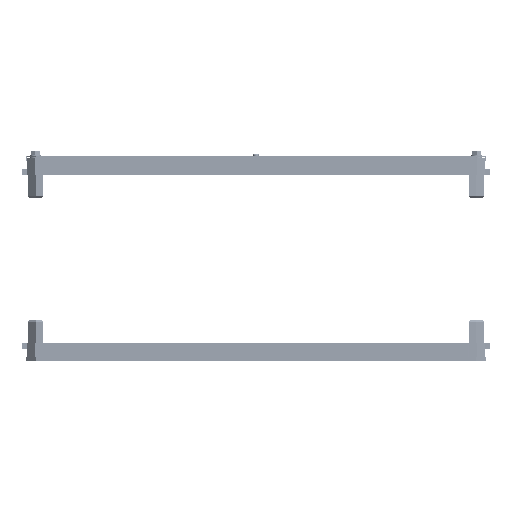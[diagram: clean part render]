
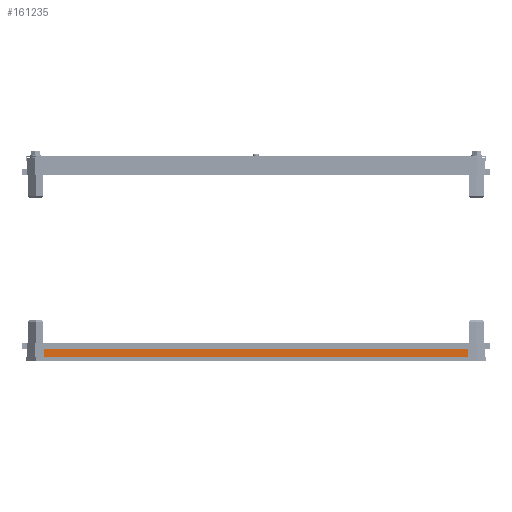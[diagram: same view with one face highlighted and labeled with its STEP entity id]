
A CAD part, left-side view. The second image highlights one B-rep face of the part: STEP entity #161235.
In plain terms, the highlighted planar face has unit normal (-1, 0, 0).
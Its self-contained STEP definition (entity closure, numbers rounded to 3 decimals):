
#52591 = CARTESIAN_POINT ( 'NONE',  ( -789.55, -745.6, 22.4 ) ) ;
#52933 = VECTOR ( 'NONE', #132779, 1000. ) ;
#59098 = CARTESIAN_POINT ( 'NONE',  ( -789.55, -745.6, 22.4 ) ) ;
#61123 = LINE ( 'NONE', #127526, #214201 ) ;
#65706 = EDGE_CURVE ( 'NONE', #77886, #169997, #61123, .T. ) ;
#66369 = LINE ( 'NONE', #100127, #52933 ) ;
#67124 = ORIENTED_EDGE ( 'NONE', *, *, #65706, .T. ) ;
#69014 = CARTESIAN_POINT ( 'NONE',  ( -789.55, -745.6, -0.1 ) ) ;
#77886 = VERTEX_POINT ( 'NONE', #154582 ) ;
#78011 = CARTESIAN_POINT ( 'NONE',  ( -789.55, -745.6, -0.1 ) ) ;
#78800 = ORIENTED_EDGE ( 'NONE', *, *, #136120, .F. ) ;
#82527 = VECTOR ( 'NONE', #119018, 1000. ) ;
#83904 = DIRECTION ( 'NONE',  ( 0., 0., -1. ) ) ;
#84286 = PLANE ( 'NONE',  #158576 ) ;
#90160 = EDGE_CURVE ( 'NONE', #176034, #169997, #112831, .T. ) ;
#90920 = CARTESIAN_POINT ( 'NONE',  ( -789.55, 162.4, -0.1 ) ) ;
#100127 = CARTESIAN_POINT ( 'NONE',  ( -789.55, -745.6, 21.1 ) ) ;
#112831 = LINE ( 'NONE', #78011, #131673 ) ;
#113284 = VERTEX_POINT ( 'NONE', #59098 ) ;
#114961 = DIRECTION ( 'NONE',  ( 0., 1., 0. ) ) ;
#119018 = DIRECTION ( 'NONE',  ( 0., -1., 0. ) ) ;
#121767 = EDGE_LOOP ( 'NONE', ( #67124, #144812, #215512, #78800 ) ) ;
#127526 = CARTESIAN_POINT ( 'NONE',  ( -789.55, 162.4, 21.1 ) ) ;
#131108 = CARTESIAN_POINT ( 'NONE',  ( -789.55, -745.6, 21.1 ) ) ;
#131673 = VECTOR ( 'NONE', #114961, 1000. ) ;
#132779 = DIRECTION ( 'NONE',  ( 0., 0., -1. ) ) ;
#136120 = EDGE_CURVE ( 'NONE', #77886, #113284, #199636, .T. ) ;
#144812 = ORIENTED_EDGE ( 'NONE', *, *, #90160, .F. ) ;
#146393 = FACE_OUTER_BOUND ( 'NONE', #121767, .T. ) ;
#154582 = CARTESIAN_POINT ( 'NONE',  ( -789.55, 162.4, 22.4 ) ) ;
#158576 = AXIS2_PLACEMENT_3D ( 'NONE', #131108, #199707, #183352 ) ;
#161235 = ADVANCED_FACE ( 'NONE', ( #146393 ), #84286, .F. ) ;
#169997 = VERTEX_POINT ( 'NONE', #90920 ) ;
#176034 = VERTEX_POINT ( 'NONE', #69014 ) ;
#183352 = DIRECTION ( 'NONE',  ( 0., -1., 0. ) ) ;
#191548 = EDGE_CURVE ( 'NONE', #113284, #176034, #66369, .T. ) ;
#199636 = LINE ( 'NONE', #52591, #82527 ) ;
#199707 = DIRECTION ( 'NONE',  ( 1., 0., 0. ) ) ;
#214201 = VECTOR ( 'NONE', #83904, 1000. ) ;
#215512 = ORIENTED_EDGE ( 'NONE', *, *, #191548, .F. ) ;
